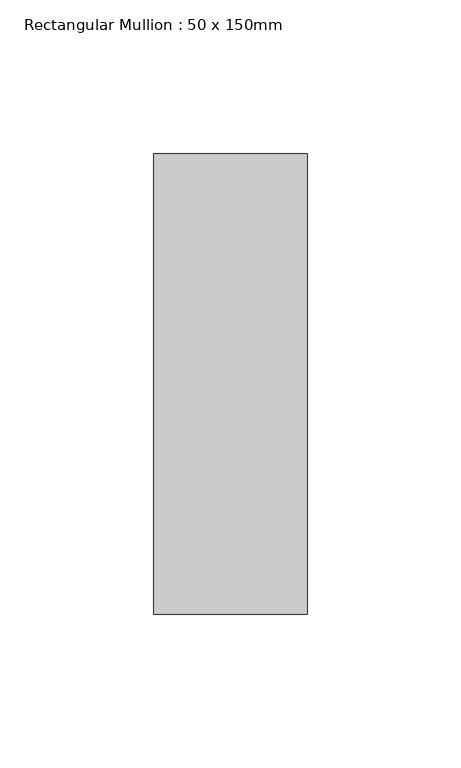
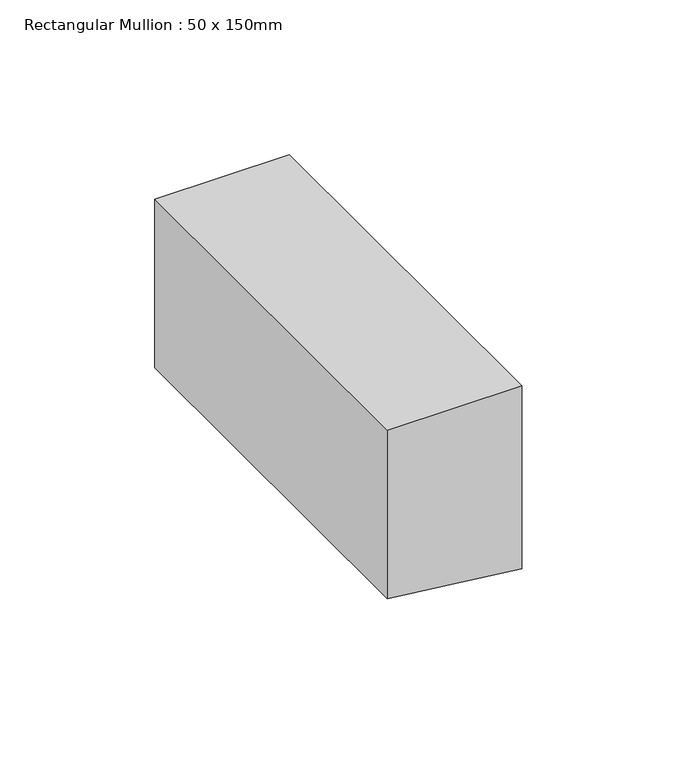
"""IFC4 building model written with IfcOpenShell, lengths in millimetres: member geometry, Rectangular Mullion : 50 x 150mm."""

from ifc_helpers import new_model, si_unit, frame, origin, place, context, project, spatial, polyline, outline, extrude, source, transform, mapped, element, save


def rectangular_mullion_50_x_150mm_d707bceb(model_context):
    return source(origin(), model_context, "Body", "SweptSolid", [
        extrude(outline(polyline([(0.0, 25.0), (0.0, -25.0), (-66.3120916, -25.0), (-69.7922509, 5.6423937), (-71.9907591, 25.0), (0.0, 25.0)])), frame((0.0, -75.0, 0.0), z_axis=(0.0, 1.0, 0.0), x_axis=(0.0, 0.0, 1.0)), (0.0, 0.0, 1.0), 150.0),
    ])


if __name__ == "__main__":
    model = new_model("IFC4")
    model_context = context("Model", 3, world=origin())
    ifc_project = project(units=[si_unit("LENGTHUNIT", "METRE", prefix="MILLI")], contexts=[model_context])
    site = spatial("IfcSite", under=ifc_project)
    building = spatial("IfcBuilding", under=site)
    placement = place(None, origin())
    rectangular_mullion_50_x_150mm_shape = rectangular_mullion_50_x_150mm_d707bceb(model_context)
    element("IfcMember", 1, ObjectType="Rectangular Mullion : 50 x 150mm", at=placement, inside=building, context=model_context, shape_type="MappedRepresentation", body=[
        mapped(rectangular_mullion_50_x_150mm_shape, transform((0.0, 0.0, 0.0), x_axis=(1.0, 0.0, 0.0), y_axis=(0.0, 1.0, 0.0), z_axis=(0.0, 0.0, 1.0))),
    ])
    save(model, "model.ifc")
